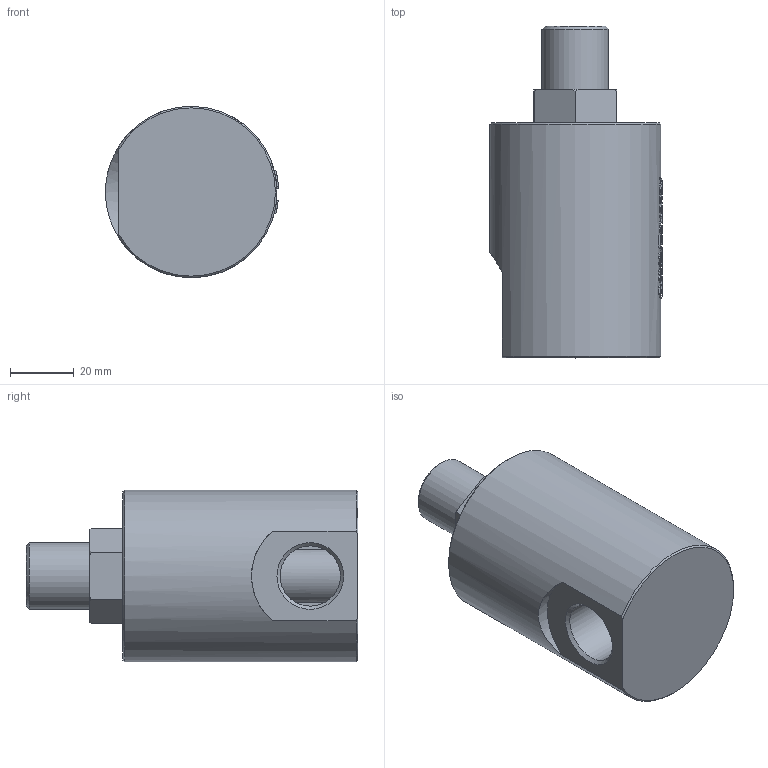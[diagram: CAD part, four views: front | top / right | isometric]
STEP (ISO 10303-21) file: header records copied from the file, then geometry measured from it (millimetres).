
FILE_DESCRIPTION(/* description */ (''),/* implementation_level */ '2;1');
FILE_NAME(/* name */ 'GSC0104.stp',/* time_stamp */ '2025-01-20T16:26:35+08:00',/* author */ (''),/* organization */ (''),/* preprocessor_version */ 'ST-DEVELOPER v16.7',/* originating_system */ 'SIEMENS PLM Software NX 12.0',/* authorisation */ '');
FILE_SCHEMA (('AUTOMOTIVE_DESIGN { 1 0 10303 214 3 1 1 1 }'));
Length unit declared in the file: millimetre
Products named in the file (1): HX056BE06534ddh5
Bounding box: 54.47 x 104.5 x 54 mm (x, y, z)
Volume: 172084.2 mm3; surface area: 21675.8 mm2
Topology: 1 solids, 1 shells, 356 faces, 922 edges, 617 vertices
Faces by surface type: plane 200, extrusion 88, bspline 29, cylinder 28, cone 11
Full cylindrical faces by diameter (mm): 12 x1, 19 x1, 20.96 x1, 54 x1
Entity records: 29601 total; most frequent: CARTESIAN_POINT 22048, ORIENTED_EDGE 1788, DIRECTION 1035, EDGE_CURVE 894, B_SPLINE_CURVE_WITH_KNOTS 678, VERTEX_POINT 614, EDGE_LOOP 430, AXIS2_PLACEMENT_3D 403
